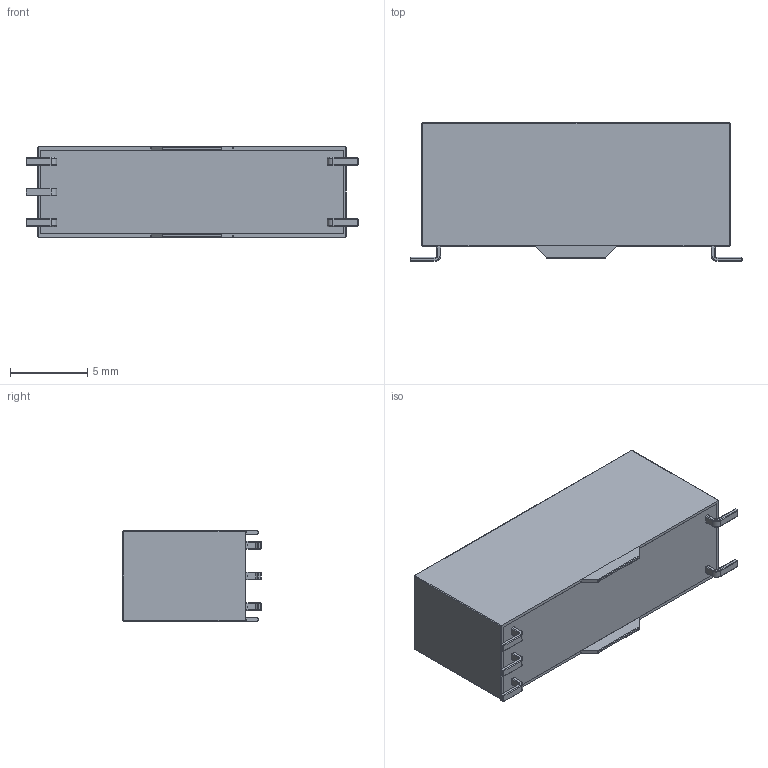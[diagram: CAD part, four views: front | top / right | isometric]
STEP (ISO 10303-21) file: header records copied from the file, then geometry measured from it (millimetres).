
FILE_DESCRIPTION (( 'STEP AP203' ), '1' );
FILE_NAME ('200-1-C.STEP', '2010-06-29T12:23:12', ( ' ' ), ( '' ), 'SwSTEP 2.0', 'SolidWorks 2009', '' );
FILE_SCHEMA (( 'CONFIG_CONTROL_DESIGN' ));
Length unit declared in the file: inch
Products named in the file (4): 200-1-C; 200-1-C shell; 200-1-C internal; 200 series pin
Assembly tree (7 placements, depth 2):
  200-1-C
    200-1-C internal
    200 series pin  x5
    200-1-C shell
Bounding box: 21.55 x 9 x 5.85 mm (x, y, z)
Volume: 938.9 mm3; surface area: 1675.4 mm2
Topology: 7 solids, 7 shells, 456 faces, 1118 edges, 688 vertices
Faces by surface type: plane 236, cylinder 114, bspline 62, sphere 24, torus 20
Entity records: 14340 total; most frequent: CARTESIAN_POINT 6454, ORIENTED_EDGE 1628, DIRECTION 1294, EDGE_CURVE 814, LINE 590, VECTOR 590, VERTEX_POINT 528, EDGE_LOOP 356
